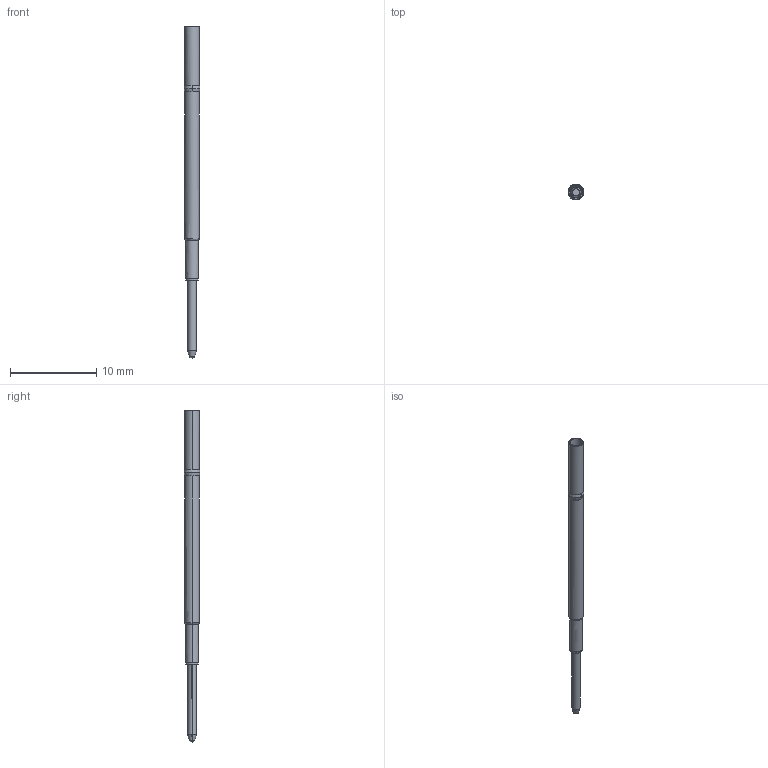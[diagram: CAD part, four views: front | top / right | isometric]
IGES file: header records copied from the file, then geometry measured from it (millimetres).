
Start section: SolidWorks IGES file using analytic representation for surfaces
Global section: file name: \\CODA-VM-SBS\RedirectedFolders\GeorgeD\My Documents\Coda\RA Series\ATE\RA4R-040.IGS; native system: SolidWorks 2022; preprocessor: SolidWorks 2022; author: GeorgeD; date: 220915.105848; units: millimetre
Bounding box: 1.83 x 1.83 x 38.41 mm (x, y, z)
Surface area: 323.7 mm2 (no closed solid volume)
Topology: 0 solids, 0 shells, 52 faces, 376 edges, 374 vertices
Faces by surface type: bspline 34, revolution 18
